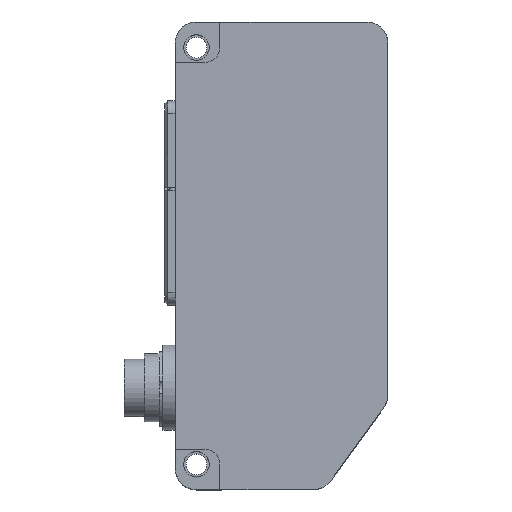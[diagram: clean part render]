
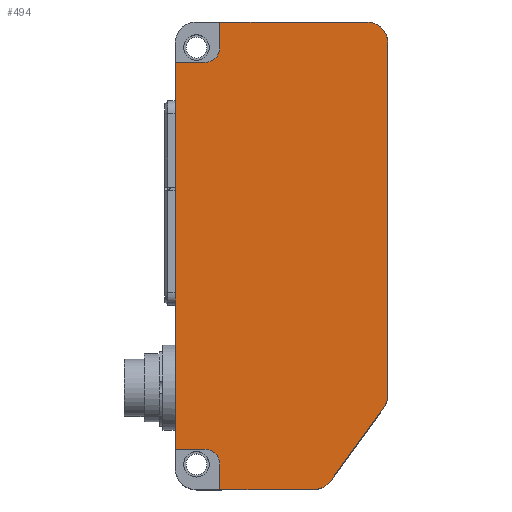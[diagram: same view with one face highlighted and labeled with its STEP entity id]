
A CAD part, top view. The second image highlights one B-rep face of the part: STEP entity #494.
In plain terms, the highlighted planar face has unit normal (0, 0, 1).
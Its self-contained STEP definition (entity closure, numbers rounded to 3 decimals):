
#494 = ADVANCED_FACE( '', ( #1058 ), #1059, .F. );
#1058 = FACE_OUTER_BOUND( '', #1623, .T. );
#1059 = PLANE( '', #1624 );
#1623 = EDGE_LOOP( '', ( #3057, #3058, #3059, #3060, #3061, #3062, #3063, #3064, #3065, #3066, #3067, #3068, #3069, #3070 ) );
#1624 = AXIS2_PLACEMENT_3D( '', #3071, #3072, #3073 );
#3057 = ORIENTED_EDGE( '', *, *, #3356, .T. );
#3058 = ORIENTED_EDGE( '', *, *, #3488, .F. );
#3059 = ORIENTED_EDGE( '', *, *, #3813, .T. );
#3060 = ORIENTED_EDGE( '', *, *, #3832, .F. );
#3061 = ORIENTED_EDGE( '', *, *, #3573, .T. );
#3062 = ORIENTED_EDGE( '', *, *, #3821, .F. );
#3063 = ORIENTED_EDGE( '', *, *, #3688, .T. );
#3064 = ORIENTED_EDGE( '', *, *, #3793, .F. );
#3065 = ORIENTED_EDGE( '', *, *, #3451, .T. );
#3066 = ORIENTED_EDGE( '', *, *, #3308, .F. );
#3067 = ORIENTED_EDGE( '', *, *, #3798, .T. );
#3068 = ORIENTED_EDGE( '', *, *, #3624, .F. );
#3069 = ORIENTED_EDGE( '', *, *, #3620, .T. );
#3070 = ORIENTED_EDGE( '', *, *, #3396, .F. );
#3071 = CARTESIAN_POINT( '', ( -50., -110., 29.7 ) );
#3072 = DIRECTION( '', ( 0., 0., -1. ) );
#3073 = DIRECTION( '', ( 0., -1., 0. ) );
#3308 = EDGE_CURVE( '', #4055, #4057, #4058, .T. );
#3356 = EDGE_CURVE( '', #4140, #4138, #4141, .T. );
#3396 = EDGE_CURVE( '', #4140, #4207, #4208, .T. );
#3451 = EDGE_CURVE( '', #4298, #4057, #4299, .F. );
#3488 = EDGE_CURVE( '', #4354, #4138, #4356, .T. );
#3573 = EDGE_CURVE( '', #4487, #4488, #4489, .F. );
#3620 = EDGE_CURVE( '', #4561, #4207, #4562, .T. );
#3624 = EDGE_CURVE( '', #4561, #4567, #4568, .T. );
#3688 = EDGE_CURVE( '', #4656, #4658, #4660, .F. );
#3793 = EDGE_CURVE( '', #4298, #4658, #4805, .T. );
#3798 = EDGE_CURVE( '', #4055, #4567, #4811, .T. );
#3813 = EDGE_CURVE( '', #4354, #4828, #4829, .T. );
#3821 = EDGE_CURVE( '', #4656, #4488, #4838, .T. );
#3832 = EDGE_CURVE( '', #4487, #4828, #4850, .T. );
#4055 = VERTEX_POINT( '', #5481 );
#4057 = VERTEX_POINT( '', #5484 );
#4058 = LINE( '', #5485, #5486 );
#4138 = VERTEX_POINT( '', #5590 );
#4140 = VERTEX_POINT( '', #5593 );
#4141 = LINE( '', #5594, #5595 );
#4207 = VERTEX_POINT( '', #5685 );
#4208 = LINE( '', #5686, #5687 );
#4298 = VERTEX_POINT( '', #5810 );
#4299 = CIRCLE( '', #5811, 5. );
#4354 = VERTEX_POINT( '', #5885 );
#4356 = CIRCLE( '', #5888, 3.5 );
#4487 = VERTEX_POINT( '', #6068 );
#4488 = VERTEX_POINT( '', #6069 );
#4489 = CIRCLE( '', #6070, 5. );
#4561 = VERTEX_POINT( '', #6152 );
#4562 = LINE( '', #6153, #6154 );
#4567 = VERTEX_POINT( '', #6161 );
#4568 = CIRCLE( '', #6162, 3.5 );
#4656 = VERTEX_POINT( '', #6281 );
#4658 = VERTEX_POINT( '', #6284 );
#4660 = CIRCLE( '', #6287, 5. );
#4805 = LINE( '', #6477, #6478 );
#4811 = LINE( '', #6485, #6486 );
#4828 = VERTEX_POINT( '', #6509 );
#4829 = LINE( '', #6510, #6511 );
#4838 = LINE( '', #6521, #6522 );
#4850 = LINE( '', #6537, #6538 );
#5481 = CARTESIAN_POINT( '', ( -39.5, 0., 29.7 ) );
#5484 = CARTESIAN_POINT( '', ( -5., 0., 29.7 ) );
#5485 = CARTESIAN_POINT( '', ( -50., 0., 29.7 ) );
#5486 = VECTOR( '', #6741, 1000. );
#5590 = CARTESIAN_POINT( '', ( -43., -100.5, 29.7 ) );
#5593 = CARTESIAN_POINT( '', ( -50., -100.5, 29.7 ) );
#5594 = CARTESIAN_POINT( '', ( -50., -100.5, 29.7 ) );
#5595 = VECTOR( '', #6800, 1000. );
#5685 = CARTESIAN_POINT( '', ( -50., -9.5, 29.7 ) );
#5686 = CARTESIAN_POINT( '', ( -50., -110., 29.7 ) );
#5687 = VECTOR( '', #6843, 1000. );
#5810 = CARTESIAN_POINT( '', ( 0., -5., 29.7 ) );
#5811 = AXIS2_PLACEMENT_3D( '', #6916, #6917, #6918 );
#5885 = CARTESIAN_POINT( '', ( -39.5, -104., 29.7 ) );
#5888 = AXIS2_PLACEMENT_3D( '', #6957, #6958, #6959 );
#6068 = CARTESIAN_POINT( '', ( -17.514, -110., 29.7 ) );
#6069 = CARTESIAN_POINT( '', ( -13.469, -107.939, 29.7 ) );
#6070 = AXIS2_PLACEMENT_3D( '', #7054, #7055, #7056 );
#6152 = CARTESIAN_POINT( '', ( -43., -9.5, 29.7 ) );
#6153 = CARTESIAN_POINT( '', ( -50., -9.5, 29.7 ) );
#6154 = VECTOR( '', #7136, 1000. );
#6161 = CARTESIAN_POINT( '', ( -39.5, -6., 29.7 ) );
#6162 = AXIS2_PLACEMENT_3D( '', #7139, #7140, #7141 );
#6281 = CARTESIAN_POINT( '', ( -0.955, -90.714, 29.7 ) );
#6284 = CARTESIAN_POINT( '', ( 0., -87.775, 29.7 ) );
#6287 = AXIS2_PLACEMENT_3D( '', #7208, #7209, #7210 );
#6477 = CARTESIAN_POINT( '', ( 0., -89.4, 29.7 ) );
#6478 = VECTOR( '', #7322, 1000. );
#6485 = CARTESIAN_POINT( '', ( -39.5, -110., 29.7 ) );
#6486 = VECTOR( '', #7327, 1000. );
#6509 = CARTESIAN_POINT( '', ( -39.5, -110., 29.7 ) );
#6510 = CARTESIAN_POINT( '', ( -39.5, -110., 29.7 ) );
#6511 = VECTOR( '', #7337, 1000. );
#6521 = CARTESIAN_POINT( '', ( -14.967, -110., 29.7 ) );
#6522 = VECTOR( '', #7342, 1000. );
#6537 = CARTESIAN_POINT( '', ( -50., -110., 29.7 ) );
#6538 = VECTOR( '', #7346, 1000. );
#6741 = DIRECTION( '', ( 1., 0., 0. ) );
#6800 = DIRECTION( '', ( 1., 0., 0. ) );
#6843 = DIRECTION( '', ( 0., 1., 0. ) );
#6916 = CARTESIAN_POINT( '', ( -5., -5., 29.7 ) );
#6917 = DIRECTION( '', ( 0., 0., -1. ) );
#6918 = DIRECTION( '', ( 0., -1., 0. ) );
#6957 = CARTESIAN_POINT( '', ( -43., -104., 29.7 ) );
#6958 = DIRECTION( '', ( 0., 0., 1. ) );
#6959 = DIRECTION( '', ( 0., -1., 0. ) );
#7054 = CARTESIAN_POINT( '', ( -17.514, -105., 29.7 ) );
#7055 = DIRECTION( '', ( 0., 0., -1. ) );
#7056 = DIRECTION( '', ( 0., -1., 0. ) );
#7136 = DIRECTION( '', ( -1., 0., 0. ) );
#7139 = CARTESIAN_POINT( '', ( -43., -6., 29.7 ) );
#7140 = DIRECTION( '', ( 0., 0., 1. ) );
#7141 = DIRECTION( '', ( 0., 1., 0. ) );
#7208 = CARTESIAN_POINT( '', ( -5., -87.775, 29.7 ) );
#7209 = DIRECTION( '', ( 0., 0., -1. ) );
#7210 = DIRECTION( '', ( 0., -1., 0. ) );
#7322 = DIRECTION( '', ( 0., -1., 0. ) );
#7327 = DIRECTION( '', ( 0., -1., 0. ) );
#7337 = DIRECTION( '', ( 0., -1., 0. ) );
#7342 = DIRECTION( '', ( -0.588, -0.809, 0. ) );
#7346 = DIRECTION( '', ( -1., 0., 0. ) );
